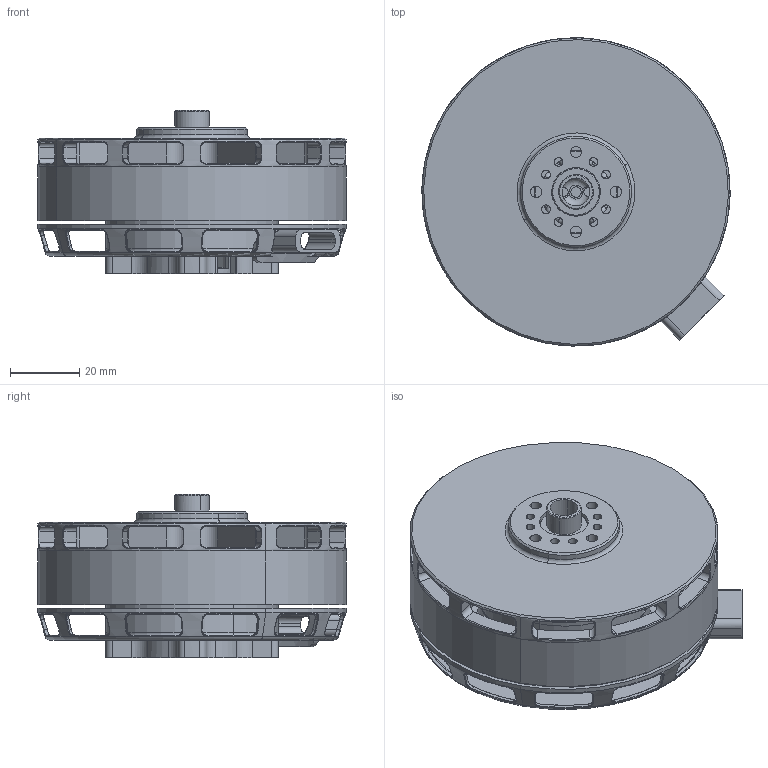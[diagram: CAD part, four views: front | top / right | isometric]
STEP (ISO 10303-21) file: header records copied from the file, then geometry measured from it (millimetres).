
FILE_DESCRIPTION (( 'STEP AP203' ), '1' );
FILE_NAME ('VL8015-勤俋.STEP', '2024-10-11T01:43:31', ( '1' ), ( '' ), 'SwSTEP 2.0', 'SolidWorks 2021', '' );
FILE_SCHEMA (( 'CONFIG_CONTROL_DESIGN' ));
Length unit declared in the file: millimetre
Products named in the file (15): VL8011.5-SANRENPIAN; 覜茼棠沺; VL8011.5-gangzhou-2; 粣12mm-huangtongdianpian; EZO 6901 ZZ; qiangai; VL8011.5-gangquan; VL-棠晤釱; VL8011.5-hougai-郔笝; V炵蹈隅蔑晤鎢んV2.0; VL100-晤鎢ん菁釱-A; VL-坶粣菜え; huxiantao; VL8015-勤俋; M12
Assembly tree (15 placements, depth 2):
  VL8015-勤俋
    VL8011.5-gangquan
    qiangai
    VL8011.5-gangzhou-2
    VL-棠晤釱
    VL-坶粣菜え
    V炵蹈隅蔑晤鎢んV2.0
    覜茼棠沺
    VL8011.5-hougai-郔笝
    M12
    EZO 6901 ZZ  x2
    粣12mm-huangtongdianpian
    VL8011.5-SANRENPIAN
    VL100-晤鎢ん菁釱-A
    huxiantao
Bounding box: 88.78 x 88.78 x 47 mm (x, y, z)
Volume: 58704 mm3; surface area: 80673.9 mm2
Topology: 62 solids, 62 shells, 3113 faces, 8497 edges, 5174 vertices
Faces by surface type: plane 1055, cylinder 1013, bspline 357, sphere 304, torus 291, cone 93
Entity records: 134670 total; most frequent: CARTESIAN_POINT 64666, ORIENTED_EDGE 15196, DIRECTION 13101, EDGE_CURVE 7598, AXIS2_PLACEMENT_3D 5078, VERTEX_POINT 4719, EDGE_LOOP 3125, ADVANCED_FACE 2967
